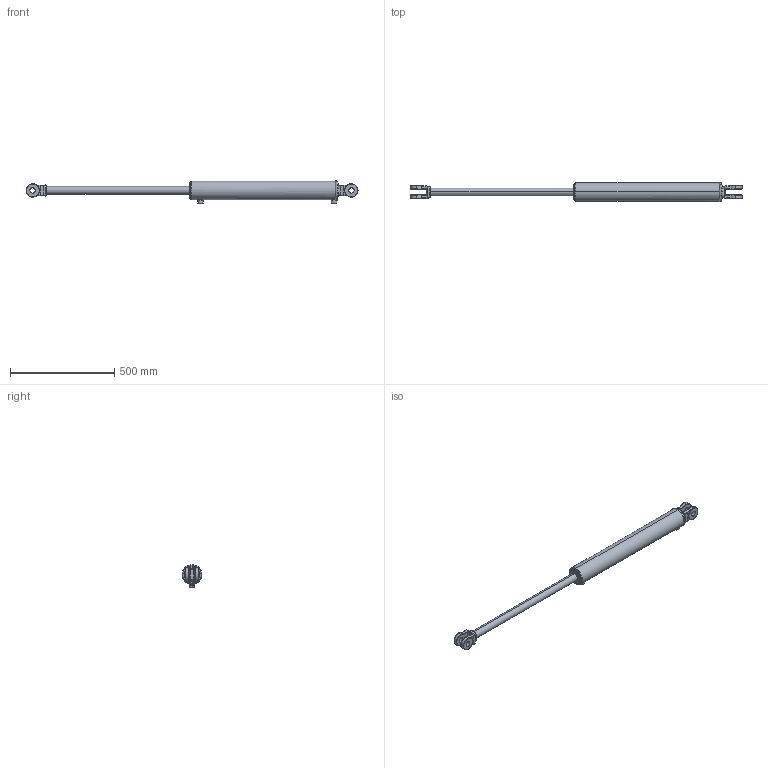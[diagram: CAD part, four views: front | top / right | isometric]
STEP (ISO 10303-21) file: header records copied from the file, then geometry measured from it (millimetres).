
FILE_DESCRIPTION (( 'STEP AP203' ), '1' );
FILE_NAME ('CL-CL300150x610 (24) extended.STEP', '2014-11-21T23:35:12', ( '' ), ( '' ), 'SwSTEP 2.0', 'SolidWorks 2014', '' );
FILE_SCHEMA (( 'CONFIG_CONTROL_DESIGN' ));
Length unit declared in the file: millimetre
Products named in the file (4): CL-CL300150x  body_3x24; 3 in ext circlip; SPARE 6_24x1.5; CL-CL300150x610 (24) extended
Assembly tree (3 placements, depth 2):
  CL-CL300150x610 (24) extended
    CL-CL300150x  body_3x24
    3 in ext circlip
    SPARE 6_24x1.5
Bounding box: 1594.39 x 94.87 x 109.9 mm (x, y, z)
Volume: 4973672.9 mm3; surface area: 430312.7 mm2
Topology: 3 solids, 3 shells, 212 faces, 515 edges, 316 vertices
Faces by surface type: cylinder 92, bspline 61, plane 37, torus 14, cone 8
Entity records: 11771 total; most frequent: CARTESIAN_POINT 6695, ORIENTED_EDGE 1022, DIRECTION 943, EDGE_CURVE 511, AXIS2_PLACEMENT_3D 393, VERTEX_POINT 316, CIRCLE 236, EDGE_LOOP 235
